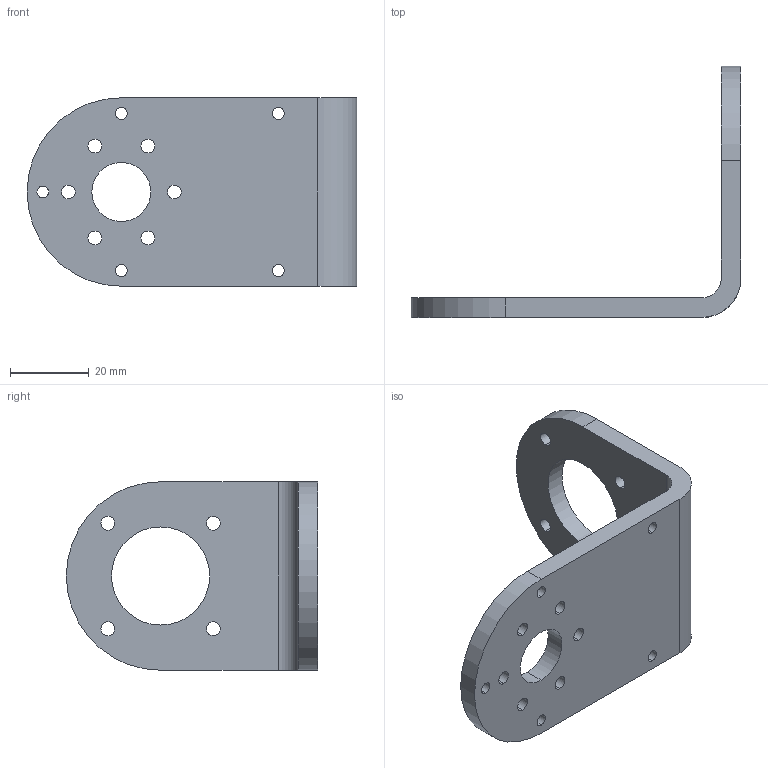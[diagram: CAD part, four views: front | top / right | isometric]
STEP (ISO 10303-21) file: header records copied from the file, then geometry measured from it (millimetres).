
FILE_DESCRIPTION (( 'STEP AP203' ), '1' );
FILE_NAME ('拻鞠粣蟀諉璃.STEP', '2024-12-25T03:22:57', ( '' ), ( '' ), 'SwSTEP 2.0', 'SolidWorks 2022', '' );
FILE_SCHEMA (( 'CONFIG_CONTROL_DESIGN' ));
Length unit declared in the file: millimetre
Products named in the file (1): 拻鞠粣蟀諉璃
Bounding box: 84 x 64 x 48 mm (x, y, z)
Volume: 27079.5 mm3; surface area: 13917.3 mm2
Topology: 1 solids, 1 shells, 44 faces, 126 edges, 84 vertices
Faces by surface type: cylinder 38, plane 6
Entity records: 1631 total; most frequent: DIRECTION 292, CARTESIAN_POINT 255, ORIENTED_EDGE 252, EDGE_CURVE 126, AXIS2_PLACEMENT_3D 121, VERTEX_POINT 84, EDGE_LOOP 78, CIRCLE 76
